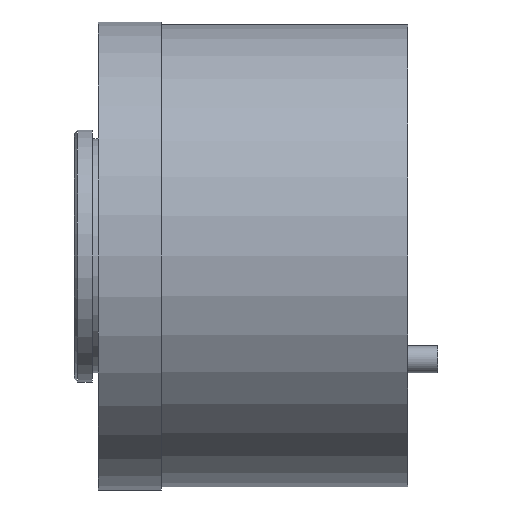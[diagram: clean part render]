
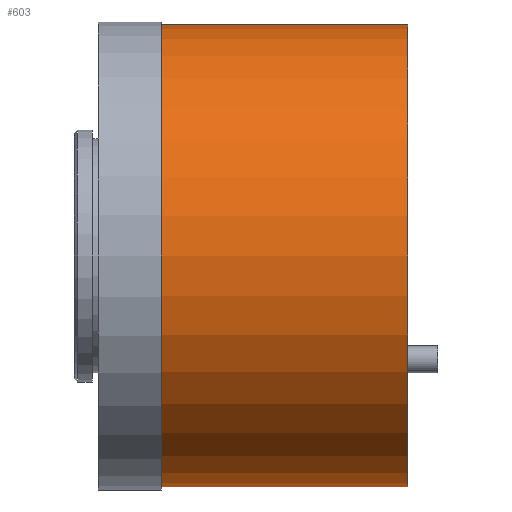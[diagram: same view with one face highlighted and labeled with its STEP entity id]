
A CAD part, left-side view. The second image highlights one B-rep face of the part: STEP entity #603.
In plain terms, the highlighted cylindrical face has radius 38.5 mm (diameter 77 mm), a partial arc.
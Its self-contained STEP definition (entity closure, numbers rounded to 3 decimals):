
#24 = CARTESIAN_POINT ( 'NONE',  ( 0., 0., 0. ) ) ;
#38 = EDGE_LOOP ( 'NONE', ( #185, #430, #125, #140 ) ) ;
#92 = EDGE_CURVE ( 'NONE', #186, #100, #517, .T. ) ;
#99 = EDGE_CURVE ( 'NONE', #382, #100, #687, .T. ) ;
#100 = VERTEX_POINT ( 'NONE', #837 ) ;
#107 = FACE_OUTER_BOUND ( 'NONE', #38, .T. ) ;
#125 = ORIENTED_EDGE ( 'NONE', *, *, #92, .T. ) ;
#140 = ORIENTED_EDGE ( 'NONE', *, *, #99, .F. ) ;
#170 = DIRECTION ( 'NONE',  ( 0., 1., 0. ) ) ;
#185 = ORIENTED_EDGE ( 'NONE', *, *, #734, .F. ) ;
#186 = VERTEX_POINT ( 'NONE', #308 ) ;
#253 = DIRECTION ( 'NONE',  ( 0., 1., 0. ) ) ;
#277 = CYLINDRICAL_SURFACE ( 'NONE', #292, 38.5 ) ;
#292 = AXIS2_PLACEMENT_3D ( 'NONE', #798, #253, #578 ) ;
#300 = VECTOR ( 'NONE', #571, 1000. ) ;
#308 = CARTESIAN_POINT ( 'NONE',  ( 0., 0., 38.5 ) ) ;
#345 = CARTESIAN_POINT ( 'NONE',  ( 0., 0., -38.5 ) ) ;
#366 = DIRECTION ( 'NONE',  ( 0., 1., 0. ) ) ;
#382 = VERTEX_POINT ( 'NONE', #701 ) ;
#414 = EDGE_CURVE ( 'NONE', #478, #186, #663, .T. ) ;
#430 = ORIENTED_EDGE ( 'NONE', *, *, #414, .T. ) ;
#468 = DIRECTION ( 'NONE',  ( 0., 1., 0. ) ) ;
#478 = VERTEX_POINT ( 'NONE', #345 ) ;
#506 = AXIS2_PLACEMENT_3D ( 'NONE', #24, #468, #532 ) ;
#517 = LINE ( 'NONE', #686, #813 ) ;
#532 = DIRECTION ( 'NONE',  ( 0., 0., 1. ) ) ;
#558 = CARTESIAN_POINT ( 'NONE',  ( 0., 41., 0. ) ) ;
#571 = DIRECTION ( 'NONE',  ( 0., 1., 0. ) ) ;
#578 = DIRECTION ( 'NONE',  ( 0., 0., 1. ) ) ;
#603 = ADVANCED_FACE ( 'NONE', ( #107 ), #277, .T. ) ;
#653 = CARTESIAN_POINT ( 'NONE',  ( 0., 127.835, -38.5 ) ) ;
#663 = CIRCLE ( 'NONE', #506, 38.5 ) ;
#686 = CARTESIAN_POINT ( 'NONE',  ( 0., 127.835, 38.5 ) ) ;
#687 = CIRCLE ( 'NONE', #748, 38.5 ) ;
#701 = CARTESIAN_POINT ( 'NONE',  ( 0., 41., -38.5 ) ) ;
#705 = DIRECTION ( 'NONE',  ( 0., 0., 1. ) ) ;
#710 = LINE ( 'NONE', #653, #300 ) ;
#734 = EDGE_CURVE ( 'NONE', #478, #382, #710, .T. ) ;
#748 = AXIS2_PLACEMENT_3D ( 'NONE', #558, #170, #705 ) ;
#798 = CARTESIAN_POINT ( 'NONE',  ( 0., 127.835, 0. ) ) ;
#813 = VECTOR ( 'NONE', #366, 1000. ) ;
#837 = CARTESIAN_POINT ( 'NONE',  ( 0., 41., 38.5 ) ) ;
